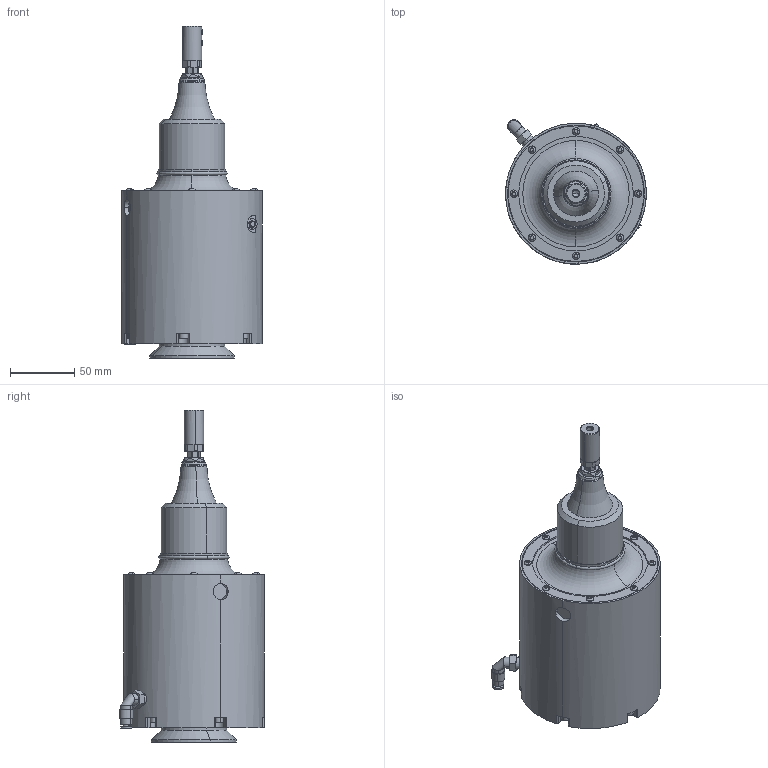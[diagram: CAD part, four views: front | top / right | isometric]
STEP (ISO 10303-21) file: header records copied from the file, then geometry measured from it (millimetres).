
FILE_DESCRIPTION (( 'STEP AP214' ), '1' );
FILE_NAME ('ATI-9150-CRT-12-5.STEP', '2020-07-31T17:25:01', ( '' ), ( '' ), 'SwSTEP 2.0', 'SolidWorks 2020', '' );
FILE_SCHEMA (( 'AUTOMOTIVE_DESIGN' ));
Length unit declared in the file: inch
Products named in the file (1): ATI-9150-CRT-12-5
Bounding box: 109.14 x 112.12 x 257.5 mm (x, y, z)
Volume: 1253978 mm3; surface area: 86414.2 mm2
Topology: 1 solids, 1 shells, 476 faces, 1154 edges, 743 vertices
Faces by surface type: plane 244, cylinder 164, cone 35, sphere 16, torus 13, bspline 4
Entity records: 14838 total; most frequent: CARTESIAN_POINT 3394, DIRECTION 2474, ORIENTED_EDGE 2300, EDGE_CURVE 1150, AXIS2_PLACEMENT_3D 917, VERTEX_POINT 743, LINE 640, VECTOR 640
